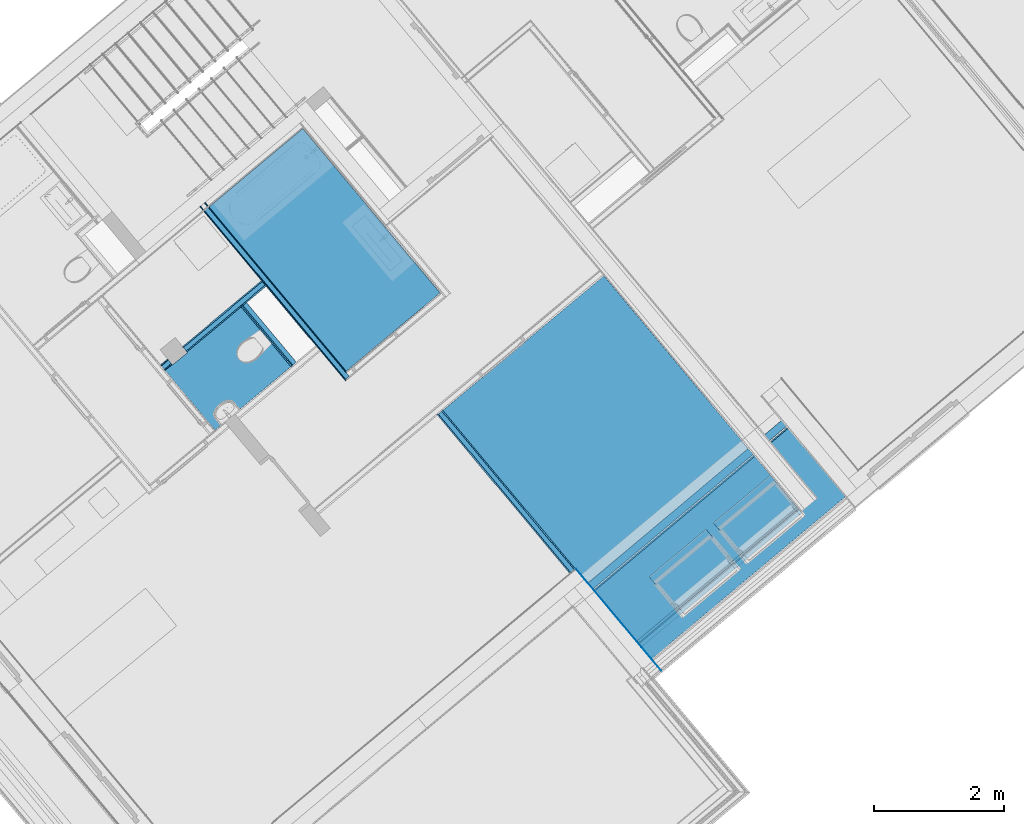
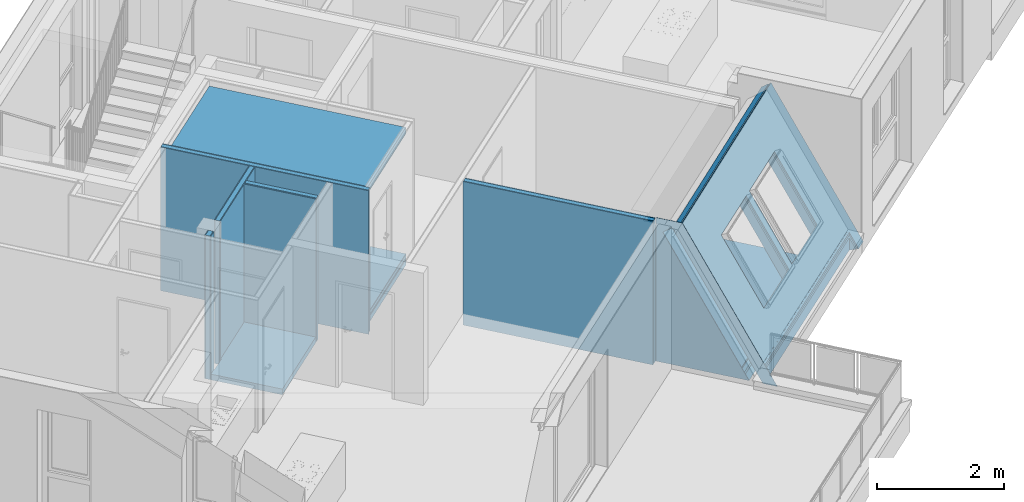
# One storey, part 25 of 58: 26 building element parts, 2 openings, 10 elements without a shape of their own.
"""IFC4 building model written with IfcOpenShell, lengths in metres."""

from ifc_helpers import new_model, entity, si_unit, converted_unit, derived_unit, direction, frame, origin_with_axes, place, context, subcontext, project, spatial, polygons, material, type_object, element, aggregate, save


model = new_model("IFC4")

# Units and contexts
model_context = context("Model", 3, precision=1e-05, world=origin_with_axes(), true_north=direction((0.0, 1.0)))
body_context = subcontext(model_context, "Body", "Model", "MODEL_VIEW")
ifc_project = project(units=[si_unit("LENGTHUNIT", "METRE"), si_unit("AREAUNIT", "SQUARE_METRE"), si_unit("VOLUMEUNIT", "CUBIC_METRE"), converted_unit("PLANEANGLEUNIT", "DEGREE", entity("IfcPlaneAngleMeasure", 0.0174532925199), si_unit("PLANEANGLEUNIT", "RADIAN"), dimensions=[0, 0, 0, 0, 0, 0, 0]), converted_unit("TIMEUNIT", "Year", entity("IfcTimeMeasure", 31556926.0), si_unit("TIMEUNIT", "SECOND"), dimensions=[0, 0, 1, 0, 0, 0, 0]), si_unit("MASSUNIT", "GRAM", prefix="KILO"), si_unit("THERMODYNAMICTEMPERATUREUNIT", "DEGREE_CELSIUS"), si_unit("LUMINOUSINTENSITYUNIT", "LUMEN"), si_unit("ENERGYUNIT", "JOULE", prefix="MEGA"), derived_unit("THERMALCONDUCTANCEUNIT", [(si_unit("POWERUNIT", "WATT"), 1), (si_unit("LENGTHUNIT", "METRE"), -1), (si_unit("THERMODYNAMICTEMPERATUREUNIT", "KELVIN"), -1)]), derived_unit("SPECIFICHEATCAPACITYUNIT", [(si_unit("ENERGYUNIT", "JOULE"), 1), (si_unit("MASSUNIT", "GRAM", prefix="KILO"), -1), (si_unit("THERMODYNAMICTEMPERATUREUNIT", "KELVIN"), -1)]), derived_unit("MASSDENSITYUNIT", [(si_unit("MASSUNIT", "GRAM", prefix="KILO"), 1), (si_unit("VOLUMEUNIT", "CUBIC_METRE"), -1)])], contexts=[model_context])

# Site, building, storey
site_placement = place(None, frame((-0.00153261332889, -0.00661245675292, 0.0), z_axis=(0.0, 0.0, 1.0), x_axis=(1.0, 0.0, 0.0)))
site = spatial("IfcSite", under=ifc_project, at=site_placement, Name="Site", CompositionType="ELEMENT")
building_placement = place(site_placement, origin_with_axes())
building = spatial("IfcBuilding", under=site, at=building_placement, Name="Building", CompositionType="ELEMENT")
storey_placement = place(building_placement, frame((0.0, 0.0, 5.7), z_axis=(0.0, 0.0, 1.0), x_axis=(1.0, 0.0, 0.0)))
storey = spatial("IfcBuildingStorey", under=building, at=storey_placement, Name="DG1", CompositionType="ELEMENT", Elevation=5.7)

# Roof, openings, building element parts
roof_type = type_object("IfcRoofType", Name="Schrägdach Dachaufbau 210", PredefinedType="NOTDEFINED")
roof_placement = place(storey_placement, frame((10.1759285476, 14.85885561, -4.03883204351), z_axis=(0.0, 0.0, 1.0), x_axis=(-0.767011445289, -0.641633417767, 0.0)))
roof = element("IfcRoof", 1, at=roof_placement, inside=storey, type_object=roof_type, Name="Dach-001", PredefinedType="NOTDEFINED")
opening_1_placement = place(roof_placement, frame((1.23343594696, -2.60271391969, 0.889200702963), z_axis=(0.0, 0.0, 1.0), x_axis=(1.0, 0.0, 0.0)))
element("IfcOpeningElement", 2, at=opening_1_placement, cuts=roof, Name="DFenst-002", context=body_context, identifier="Reference", shape_type="Tessellation", body=[
    polygons([(0.572377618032, 0.0, 4.03883204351), (-0.572377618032, 0.0, 4.03883204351), (-0.572377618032, 0.000866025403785, 4.03933204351), (0.572377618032, 0.000866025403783, 4.03933204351), (0.572377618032, 0.0, 3.61683204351), (-0.572377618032, 0.0, 3.61683204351), (-0.572377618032, -0.7, 5.2512676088), (-0.572377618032, -0.699133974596, 5.2517676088), (0.572377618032, -0.699133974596, 5.2517676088), (0.572377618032, -0.7, 5.2512676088), (0.572377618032, -0.943641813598, 5.2512676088), (-0.572377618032, -0.943641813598, 5.2512676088)], [[[1, 2, 3, 4]], [[2, 1, 5, 6]], [[2, 7, 8, 3]], [[9, 4, 3, 8]], [[10, 1, 4, 9]], [[1, 10, 11, 5]], [[12, 6, 5, 11]], [[7, 2, 6, 12]], [[7, 10, 9, 8]], [[10, 7, 12, 11]]], closed=True),
])
opening_2_placement = place(roof_placement, frame((2.52581356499, -2.60271392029, 0.889200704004), z_axis=(0.0, 0.0, 1.0), x_axis=(1.0, 0.0, 0.0)))
element("IfcOpeningElement", 3, at=opening_2_placement, cuts=roof, Name="DFenst-002", context=body_context, identifier="Reference", shape_type="Tessellation", body=[
    polygons([(0.57, 0.0, 4.03883204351), (-0.57, 0.0, 4.03883204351), (-0.57, 0.000866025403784, 4.03933204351), (0.57, 0.000866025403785, 4.03933204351), (0.57, 0.0, 3.61683204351), (-0.57, 0.0, 3.61683204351), (-0.57, -0.7, 5.2512676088), (-0.57, -0.699133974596, 5.2517676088), (0.57, -0.699133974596, 5.2517676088), (0.57, -0.7, 5.2512676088), (0.57, -0.943641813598, 5.2512676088), (-0.57, -0.943641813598, 5.2512676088)], [[[1, 2, 3, 4]], [[2, 1, 5, 6]], [[2, 7, 8, 3]], [[9, 4, 3, 8]], [[10, 1, 4, 9]], [[1, 10, 11, 5]], [[12, 6, 5, 11]], [[7, 2, 6, 12]], [[7, 10, 9, 8]], [[10, 7, 12, 11]]], closed=True),
])
ifc_material_1 = material(Name="Bauholz")
building_element_part_1_placement = place(roof_placement, origin_with_axes())
building_element_part_1 = element("IfcBuildingElementPart", 4, at=building_element_part_1_placement, material=ifc_material_1, Name="Bauholz", PredefinedType="NOTDEFINED", context=body_context, shape_type="Tessellation", body=[
    polygons([(3.87523381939, -2.3241100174, 4.42547663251), (-0.00623258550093, -2.32467653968, 4.42645787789), (-0.00623275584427, -2.32356905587, 4.42453965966), (3.87523373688, -2.32357996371, 4.42455855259), (3.87523064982, -2.30374741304, 4.39020756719), (-0.00623571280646, -2.30434442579, 4.39124162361), (-0.00626005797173, -2.14606482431, 4.11709331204), (-0.221145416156, -2.14608603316, 4.11713004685), (-0.220992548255, -3.69492330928, 6.79979490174), (3.87544592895, -3.68678954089, 6.78570680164), (1.80581356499, -3.31426092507, 6.14046831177), (0.661058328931, -3.31426092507, 6.14046831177), (0.661058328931, -2.60271391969, 4.90803274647), (1.80581356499, -2.60271391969, 4.90803274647), (3.09581356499, -2.60271392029, 4.90803274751), (3.09581356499, -3.31426092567, 6.14046831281), (1.95581356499, -3.31426092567, 6.14046831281), (1.95581356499, -2.60271392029, 4.90803274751), (3.87523375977, -2.32413801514, 4.42457589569), (-0.00623257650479, -2.32473502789, 4.42457589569), (3.87544567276, -3.70679450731, 6.77035641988), (3.87522727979, -2.30374741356, 4.34020756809), (-0.00623571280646, -2.30434442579, 4.34124162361), (-0.00625647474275, -2.16936111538, 4.1074436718), (-0.221145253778, -2.16938232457, 4.1074804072), (-0.220992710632, -3.71492827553, 6.78444451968), (1.80581356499, -3.34312843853, 6.14046831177), (0.661058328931, -3.34312843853, 6.14046831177), (0.661058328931, -2.60271391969, 4.85803274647), (1.80581356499, -2.60271391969, 4.85803274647), (3.09581356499, -3.34312843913, 6.14046831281), (3.09581356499, -2.60271392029, 4.85803274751), (1.95581356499, -3.34312843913, 6.14046831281), (1.95581356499, -2.60271392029, 4.85803274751)], [[[1, 2, 3, 4, 5, 6, 7, 8, 9, 10], [11, 12, 13, 14], [15, 16, 17, 18]], [[2, 1, 19, 20]], [[3, 2, 20]], [[4, 3, 20, 19]], [[19, 1, 10, 21, 22, 5, 4]], [[6, 5, 22, 23]], [[7, 6, 23, 24]], [[7, 24, 25, 8]], [[25, 26, 9, 8]], [[26, 21, 10, 9]], [[12, 11, 27, 28]], [[13, 12, 28, 29]], [[14, 13, 29, 30]], [[11, 14, 30, 27]], [[31, 16, 15, 32]], [[33, 17, 16, 31]], [[34, 18, 17, 33]], [[32, 15, 18, 34]], [[23, 22, 21, 26, 25, 24], [27, 30, 29, 28], [33, 31, 32, 34]]], closed=True),
])
ifc_material_2 = material(Name="EPS 1")
building_element_part_2_placement = place(roof_placement, origin_with_axes())
building_element_part_2 = element("IfcBuildingElementPart", 5, at=building_element_part_2_placement, material=ifc_material_2, Name="EPS 1", PredefinedType="NOTDEFINED", context=body_context, shape_type="Tessellation", body=[
    polygons([(3.87522390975, -2.30374741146, 4.29020756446), (-0.00623571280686, -2.30434442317, 4.29124161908), (-0.00625289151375, -2.19265740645, 4.09779403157), (-0.2211450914, -2.19267861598, 4.09783076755), (-0.220992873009, -3.73493324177, 6.76909413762), (3.87544541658, -3.72679947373, 6.75500603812), (1.80581356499, -3.37199595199, 6.14046831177), (0.661058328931, -3.37199595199, 6.14046831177), (0.661058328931, -2.60271391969, 4.80803274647), (1.80581356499, -2.60271391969, 4.80803274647), (3.09581356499, -2.60271392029, 4.80803274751), (3.09581356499, -3.37199595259, 6.14046831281), (1.95581356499, -3.37199595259, 6.14046831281), (1.95581356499, -2.60271392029, 4.80803274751), (3.87520778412, -2.30374741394, 4.0509568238), (-0.00623571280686, -2.30434442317, 4.05153175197), (3.87520809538, -2.33205206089, 4.03923265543), (-0.22114411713, -2.33245636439, 4.03993292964), (-0.22099384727, -3.85496303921, 6.67699184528), (3.87544387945, -3.8468292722, 6.66290374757), (1.80581356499, -3.54520103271, 6.14046831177), (0.661058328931, -3.54520103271, 6.14046831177), (0.661058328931, -2.60271391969, 4.50803274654), (1.80581356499, -2.60271391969, 4.50803274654), (3.09581356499, -3.54520103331, 6.14046831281), (3.09581356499, -2.60271392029, 4.50803274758), (1.95581356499, -3.54520103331, 6.14046831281), (1.95581356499, -2.60271392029, 4.50803274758)], [[[1, 2, 3, 4, 5, 6], [7, 8, 9, 10], [11, 12, 13, 14]], [[2, 1, 15, 16]], [[16, 3, 2]], [[16, 15, 17, 18, 4, 3]], [[18, 19, 5, 4]], [[19, 20, 6, 5]], [[15, 1, 6, 20, 17]], [[8, 7, 21, 22]], [[9, 8, 22, 23]], [[10, 9, 23, 24]], [[7, 10, 24, 21]], [[25, 12, 11, 26]], [[27, 13, 12, 25]], [[28, 14, 13, 27]], [[26, 11, 14, 28]], [[20, 19, 18, 17], [21, 24, 23, 22], [27, 25, 26, 28]]], closed=True),
])
aggregate(roof, [building_element_part_1, building_element_part_2])

# Wall, building element parts
wall_type_1 = type_object("IfcWallType", Name="IW LB 01 Leichtbautrennwand einfach 10,5 cm 105", PredefinedType="NOTDEFINED")
wall_1_placement = place(storey_placement, frame((2.49953312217, 17.9744361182, 0.0), z_axis=(0.0, 0.0, 1.0), x_axis=(0.641209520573, -0.767365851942, 0.0)))
wall_1 = element("IfcWall", 6, at=wall_1_placement, inside=storey, type_object=wall_type_1, Name="Wand-012", PredefinedType="NOTDEFINED")
ifc_material_3 = material(Name="Gipskarton")
building_element_part_3_placement = place(wall_1_placement, origin_with_axes())
building_element_part_3 = element("IfcBuildingElementPart", 7, at=building_element_part_3_placement, material=ifc_material_3, Name="Gipskarton", PredefinedType="NOTDEFINED", context=body_context, shape_type="Tessellation", body=[
    polygons([(3.18327552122, -0.015, 2.76), (3.18327552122, 0.0, 2.76), (1.03363873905e-06, 0.0, 2.76), (1.02740511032e-06, -0.015, 2.76), (3.18327552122, -0.015, 0.0), (3.18327552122, 0.0, 0.0), (1.03363873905e-06, 0.0, 0.0), (1.0274051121e-06, -0.015, 0.0)], [[[1, 2, 3, 4]], [[1, 5, 6, 2]], [[2, 6, 7, 3]], [[4, 3, 7, 8]], [[5, 1, 4, 8]], [[6, 5, 8, 7]]], closed=True),
])
ifc_material_4 = material(Name="Mineralwolle weich")
building_element_part_4_placement = place(wall_1_placement, origin_with_axes())
building_element_part_4 = element("IfcBuildingElementPart", 8, at=building_element_part_4_placement, material=ifc_material_4, Name="Mineralwolle weich", PredefinedType="NOTDEFINED", context=body_context, shape_type="Tessellation", body=[
    polygons([(3.18327552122, -0.09, 2.76), (3.18327552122, -0.015, 2.76), (1.02740511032e-06, -0.015, 2.76), (9.96236975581e-07, -0.09, 2.76), (3.18327552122, -0.09, 0.0), (3.18327552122, -0.015, 0.0), (1.02740511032e-06, -0.015, 0.0), (9.96236975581e-07, -0.09, 0.0)], [[[1, 2, 3, 4]], [[1, 5, 6, 2]], [[2, 6, 7, 3]], [[4, 3, 7, 8]], [[5, 1, 4, 8]], [[6, 5, 8, 7]]], closed=True),
])
building_element_part_5_placement = place(wall_1_placement, origin_with_axes())
building_element_part_5 = element("IfcBuildingElementPart", 9, at=building_element_part_5_placement, material=ifc_material_3, Name="Gipskarton", PredefinedType="NOTDEFINED", context=body_context, shape_type="Tessellation", body=[
    polygons([(3.18327552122, -0.105, 2.76), (3.18327552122, -0.09, 2.76), (9.96236975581e-07, -0.09, 2.76), (9.90003348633e-07, -0.105, 2.76), (3.18327552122, -0.105, 0.0), (3.18327552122, -0.09, 0.0), (9.96236975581e-07, -0.09, 0.0), (9.90003348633e-07, -0.105, 0.0)], [[[1, 2, 3, 4]], [[1, 5, 6, 2]], [[2, 6, 7, 3]], [[4, 3, 7, 8]], [[5, 1, 4, 8]], [[6, 5, 8, 7]]], closed=True),
])
aggregate(wall_1, [building_element_part_3, building_element_part_4, building_element_part_5])

wall_2_placement = place(storey_placement, frame((-0.283908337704, 19.9697246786, 0.0), z_axis=(0.0, 0.0, 1.0), x_axis=(-0.76736585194, -0.641209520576, 0.0)))
wall_2 = element("IfcWall", 10, at=wall_2_placement, inside=storey, type_object=wall_type_1, Name="Wand-012", PredefinedType="NOTDEFINED")
building_element_part_6_placement = place(wall_2_placement, origin_with_axes())
building_element_part_6 = element("IfcBuildingElementPart", 11, at=building_element_part_6_placement, material=ifc_material_3, Name="Gipskarton", PredefinedType="NOTDEFINED", context=body_context, shape_type="Tessellation", body=[
    polygons([(1.88476244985, 0.105, 0.0), (1.88476244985, 0.105, 2.76), (2.02595275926, 0.105, 2.76), (2.02595275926, 0.105, 0.0), (1.88453826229, 0.09, 2.76), (1.88453826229, 0.09, 0.0), (2.02595275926, 0.09, 2.76), (2.02595275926, 0.09, 0.0)], [[[1, 2, 3, 4]], [[5, 2, 1, 6]], [[2, 5, 7, 3]], [[8, 4, 3, 7]], [[6, 1, 4, 8]], [[5, 6, 8, 7]]], closed=True),
    polygons([(1.58450475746, 0.09, 2.76), (1.58472894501, 0.105, 2.76), (0.0, 0.105, 2.76), (0.0, 0.09, 2.76), (1.58472894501, 0.105, 0.0), (1.58450475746, 0.09, 0.0), (0.0, 0.105, 0.0), (0.0, 0.09, 0.0)], [[[1, 2, 3, 4]], [[5, 2, 1, 6]], [[2, 5, 7, 3]], [[3, 7, 8, 4]], [[6, 1, 4, 8]], [[5, 6, 8, 7]]], closed=True),
])
building_element_part_7_placement = place(wall_2_placement, origin_with_axes())
building_element_part_7 = element("IfcBuildingElementPart", 12, at=building_element_part_7_placement, material=ifc_material_4, Name="Mineralwolle weich", PredefinedType="NOTDEFINED", context=body_context, shape_type="Tessellation", body=[
    polygons([(1.88453826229, 0.09, 0.0), (1.88453826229, 0.09, 2.76), (2.02595275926, 0.09, 2.76), (2.02595275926, 0.09, 0.0), (1.8834173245, 0.015, 2.76), (1.8834173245, 0.015, 0.0), (2.02595275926, 0.015, 2.76), (2.02595275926, 0.015, 0.0)], [[[1, 2, 3, 4]], [[5, 2, 1, 6]], [[2, 5, 7, 3]], [[8, 4, 3, 7]], [[6, 1, 4, 8]], [[5, 6, 8, 7]]], closed=True),
    polygons([(1.58338381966, 0.015, 2.76), (1.58450475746, 0.09, 2.76), (0.0, 0.09, 2.76), (0.0, 0.015, 2.76), (1.58450475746, 0.09, 0.0), (1.58338381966, 0.015, 0.0), (0.0, 0.09, 0.0), (0.0, 0.015, 0.0)], [[[1, 2, 3, 4]], [[5, 2, 1, 6]], [[2, 5, 7, 3]], [[3, 7, 8, 4]], [[6, 1, 4, 8]], [[5, 6, 8, 7]]], closed=True),
])
building_element_part_8_placement = place(wall_2_placement, origin_with_axes())
building_element_part_8 = element("IfcBuildingElementPart", 13, at=building_element_part_8_placement, material=ifc_material_3, Name="Gipskarton", PredefinedType="NOTDEFINED", context=body_context, shape_type="Tessellation", body=[
    polygons([(1.8834173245, 0.015, 0.0), (1.8834173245, 0.015, 2.76), (2.02595275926, 0.015, 2.76), (2.02595275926, 0.015, 0.0), (1.88319313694, 0.0, 2.76), (1.88319313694, 0.0, 0.0), (2.02595275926, 0.0, 2.76), (2.02595275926, 0.0, 0.0)], [[[1, 2, 3, 4]], [[5, 2, 1, 6]], [[2, 5, 7, 3]], [[8, 4, 3, 7]], [[6, 1, 4, 8]], [[5, 6, 8, 7]]], closed=True),
    polygons([(1.58315963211, 0.0, 2.76), (1.58338381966, 0.015, 2.76), (0.0, 0.015, 2.76), (0.0, 0.0, 2.76), (1.58338381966, 0.015, 0.0), (1.58315963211, 0.0, 0.0), (0.0, 0.015, 0.0), (0.0, 0.0, 0.0)], [[[1, 2, 3, 4]], [[5, 2, 1, 6]], [[2, 5, 7, 3]], [[3, 7, 8, 4]], [[6, 1, 4, 8]], [[5, 6, 8, 7]]], closed=True),
])
aggregate(wall_2, [building_element_part_6, building_element_part_7, building_element_part_8])

wall_3_placement = place(storey_placement, frame((-1.23301762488, 21.1055687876, 0.0), z_axis=(0.0, 0.0, 1.0), x_axis=(0.6412095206, -0.767365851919, 0.0)))
wall_3 = element("IfcWall", 14, at=wall_3_placement, inside=storey, type_object=wall_type_1, Name="Wand-012", PredefinedType="NOTDEFINED")
building_element_part_9_placement = place(wall_3_placement, origin_with_axes())
building_element_part_9 = element("IfcBuildingElementPart", 15, at=building_element_part_9_placement, material=ifc_material_3, Name="Gipskarton", PredefinedType="NOTDEFINED", context=body_context, shape_type="Tessellation", body=[
    polygons([(3.39960026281, 0.09, 0.0), (0.0, 0.09, 0.0), (0.0, 0.105, 0.0), (3.39960026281, 0.105, 0.0), (3.39960026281, 0.09, 2.76), (0.0, 0.09, 2.76), (0.0, 0.105, 2.76), (3.39960026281, 0.105, 2.76)], [[[1, 2, 3, 4]], [[5, 6, 2, 1]], [[3, 2, 6, 7]], [[4, 3, 7, 8]], [[4, 8, 5, 1]], [[8, 7, 6, 5]]], closed=True),
])
building_element_part_10_placement = place(wall_3_placement, origin_with_axes())
building_element_part_10 = element("IfcBuildingElementPart", 16, at=building_element_part_10_placement, material=ifc_material_4, Name="Mineralwolle weich", PredefinedType="NOTDEFINED", context=body_context, shape_type="Tessellation", body=[
    polygons([(3.47460026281, 0.015, 0.0), (0.0, 0.015, 0.0), (0.0, 0.09, 0.0), (3.47460026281, 0.09, 0.0), (3.47460026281, 0.015, 2.76), (0.0, 0.015, 2.76), (0.0, 0.09, 2.76), (3.47460026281, 0.09, 2.76)], [[[1, 2, 3, 4]], [[5, 6, 2, 1]], [[3, 2, 6, 7]], [[4, 3, 7, 8]], [[4, 8, 5, 1]], [[8, 7, 6, 5]]], closed=True),
])
building_element_part_11_placement = place(wall_3_placement, origin_with_axes())
building_element_part_11 = element("IfcBuildingElementPart", 17, at=building_element_part_11_placement, material=ifc_material_3, Name="Gipskarton", PredefinedType="NOTDEFINED", context=body_context, shape_type="Tessellation", body=[
    polygons([(3.48960026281, 0.0, 0.0), (0.0, 0.0, 0.0), (0.0, 0.015, 0.0), (3.48960026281, 0.015, 0.0), (3.48960026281, 0.0, 2.76), (0.0, 0.0, 2.76), (0.0, 0.015, 2.76), (3.48960026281, 0.015, 2.76)], [[[1, 2, 3, 4]], [[5, 6, 2, 1]], [[3, 2, 6, 7]], [[4, 3, 7, 8]], [[4, 8, 5, 1]], [[8, 7, 6, 5]]], closed=True),
])
aggregate(wall_3, [building_element_part_9, building_element_part_10, building_element_part_11])

wall_type_2 = type_object("IfcWallType", Name="LB 10,5 cm doppelte Vorsatzschale Bad 105", PredefinedType="NOTDEFINED")
wall_4_placement = place(storey_placement, frame((-0.587223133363, 19.7162753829, 0.0), z_axis=(0.0, 0.0, 1.0), x_axis=(0.64120952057, -0.767365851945, 0.0)))
wall_4 = element("IfcWall", 18, at=wall_4_placement, inside=storey, type_object=wall_type_2, Name="Wand-004", PredefinedType="NOTDEFINED")
building_element_part_12_placement = place(wall_4_placement, origin_with_axes())
building_element_part_12 = element("IfcBuildingElementPart", 19, at=building_element_part_12_placement, material=ifc_material_4, Name="Mineralwolle weich", PredefinedType="NOTDEFINED", context=body_context, shape_type="Tessellation", body=[
    polygons([(1.30487896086, 0.0, 2.76), (0.10500000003, 0.0, 2.76), (0.105000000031, -0.075, 2.76), (1.30487896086, -0.075, 2.76), (1.30487896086, 0.0, 0.0), (0.10500000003, 0.0, 0.0), (0.105000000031, -0.075, 0.0), (1.30487896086, -0.075, 0.0)], [[[1, 2, 3, 4]], [[5, 6, 2, 1]], [[3, 2, 6, 7]], [[4, 3, 7, 8]], [[4, 8, 5, 1]], [[8, 7, 6, 5]]], closed=True),
])
building_element_part_13_placement = place(wall_4_placement, origin_with_axes())
building_element_part_13 = element("IfcBuildingElementPart", 20, at=building_element_part_13_placement, material=ifc_material_3, Name="Gipskarton", PredefinedType="NOTDEFINED", context=body_context, shape_type="Tessellation", body=[
    polygons([(1.30487896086, -0.075, 2.76), (0.105000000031, -0.075, 2.76), (0.105000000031, -0.09, 2.76), (1.30487896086, -0.09, 2.76), (1.30487896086, -0.075, 0.0), (0.105000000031, -0.075, 0.0), (0.105000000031, -0.09, 0.0), (1.30487896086, -0.09, 0.0)], [[[1, 2, 3, 4]], [[5, 6, 2, 1]], [[3, 2, 6, 7]], [[4, 3, 7, 8]], [[4, 8, 5, 1]], [[8, 7, 6, 5]]], closed=True),
])
building_element_part_14_placement = place(wall_4_placement, origin_with_axes())
building_element_part_14 = element("IfcBuildingElementPart", 21, at=building_element_part_14_placement, material=ifc_material_3, Name="Gipskarton", PredefinedType="NOTDEFINED", context=body_context, shape_type="Tessellation", body=[
    polygons([(1.30487896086, -0.09, 2.76), (0.105000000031, -0.09, 2.76), (0.105000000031, -0.105, 2.76), (1.30487896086, -0.105, 2.76), (1.30487896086, -0.09, 0.0), (0.105000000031, -0.09, 0.0), (0.105000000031, -0.105, 0.0), (1.30487896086, -0.105, 0.0)], [[[1, 2, 3, 4]], [[5, 6, 2, 1]], [[3, 2, 6, 7]], [[4, 3, 7, 8]], [[4, 8, 5, 1]], [[8, 7, 6, 5]]], closed=True),
])
aggregate(wall_4, [building_element_part_12, building_element_part_13, building_element_part_14])

# Wall, building element part
wall_type_3 = type_object("IfcWallType", Name="AW EG 420", PredefinedType="NOTDEFINED")
wall_5_placement = place(storey_placement, frame((4.49965389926, 14.9497476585, 0.0), z_axis=(0.0, 0.0, 1.0), x_axis=(0.641751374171, -0.766912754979, 0.0)))
wall_5 = element("IfcWall", 22, at=wall_5_placement, inside=storey, type_object=wall_type_3, Name="Wand-002", PredefinedType="NOTDEFINED")
ifc_material_5 = material(Name="Zementputz")
building_element_part_15_placement = place(wall_5_placement, origin_with_axes())
building_element_part_15 = element("IfcBuildingElementPart", 23, at=building_element_part_15_placement, material=ifc_material_5, Name="Zementputz", PredefinedType="NOTDEFINED", context=body_context, shape_type="Tessellation", body=[
    polygons([(-0.414977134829, 0.415, 0.0), (-0.414977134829, 0.415, 2.76), (-0.414976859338, 0.42, 2.76), (-0.414976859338, 0.42, 0.0), (1.14911344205, 0.415, 0.0), (-0.299028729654, 0.415, 2.50825578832), (-0.138988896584, 0.415, 2.63105866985), (1.38005355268, 0.415, 0.0), (1.6225414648, 0.415, 0.0), (0.0290539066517, 0.415, 2.76), (0.0290546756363, 0.42, 2.76), (1.6225414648, 0.42, 0.0), (1.38005432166, 0.42, 0.0), (-0.138988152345, 0.42, 2.63105871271), (-0.299027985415, 0.42, 2.50825583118), (1.14911421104, 0.42, 0.0)], [[[1, 2, 3, 4]], [[2, 1, 5, 6, 7, 8, 9, 10]], [[3, 2, 10, 11]], [[4, 3, 11, 12, 13, 14, 15, 16]], [[1, 4, 16, 5]], [[15, 6, 5, 16]], [[6, 15, 14, 7]], [[13, 8, 7, 14]], [[8, 13, 12, 9]], [[11, 10, 9, 12]]], closed=True),
])
aggregate(wall_5, [building_element_part_15])

# Covering, building element parts
covering_type_1 = type_object("IfcCoveringType", Name="DE 01 Decke Wohnung/Wohnung Parkett 220", PredefinedType="NOTDEFINED")
covering_1_placement = place(storey_placement, frame((2.49953312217, 17.9744361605, 0.22), z_axis=(0.0, 0.0, 1.0), x_axis=(1.0, 0.0, 0.0)))
covering_1 = element("IfcCovering", 24, at=covering_1_placement, inside=storey, type_object=covering_type_1, Name="Decke-006", PredefinedType="NOTDEFINED")
ifc_material_6 = material(Name="Parkett")
building_element_part_16_placement = place(covering_1_placement, origin_with_axes())
building_element_part_16 = element("IfcBuildingElementPart", 25, at=building_element_part_16_placement, material=ifc_material_6, Name="Parkett", PredefinedType="NOTDEFINED", context=body_context, shape_type="Tessellation", body=[
    polygons([(5.44277916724, -1.47726423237, 0.0), (5.44833178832, -1.48391016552, -0.015), (2.47833027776, 2.0708851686, -0.015), (2.47833027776, 2.0708851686, 0.0), (2.98371411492, -3.54565392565, -0.015), (2.97815638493, -3.53901226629, 0.0), (2.32244345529, -2.75541502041, -0.015), (2.05272115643, -2.43305242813, -0.015), (2.0411465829, -2.44273701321, -0.015), (0.0, 0.0, -0.015), (0.0, 0.0, 0.0), (2.0411465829, -2.44273701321, 0.0), (2.05272115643, -2.43305242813, 0.0), (2.32244345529, -2.75541502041, 0.0)], [[[1, 2, 3, 4]], [[5, 2, 1, 6]], [[2, 5, 7, 8, 9, 10, 3]], [[11, 4, 3, 10]], [[6, 1, 4, 11, 12, 13, 14]], [[5, 6, 14, 7]], [[8, 7, 14, 13]], [[12, 9, 8, 13]], [[11, 10, 9, 12]]], closed=True),
])
ifc_material_7 = material(Name="Estrich")
building_element_part_17_placement = place(covering_1_placement, origin_with_axes())
building_element_part_17 = element("IfcBuildingElementPart", 26, at=building_element_part_17_placement, material=ifc_material_7, Name="Estrich", PredefinedType="NOTDEFINED", context=body_context, shape_type="Tessellation", body=[
    polygons([(5.44833178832, -1.48391016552, -0.015), (5.47239314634, -1.5127092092, -0.08), (2.47833027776, 2.0708851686, -0.08), (2.47833027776, 2.0708851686, -0.015), (3.00779761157, -3.57443444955, -0.08), (2.98371411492, -3.54565392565, -0.015), (2.32244345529, -2.75541502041, -0.08), (2.05272115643, -2.43305242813, -0.08), (2.0411465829, -2.44273701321, -0.08), (0.0, 0.0, -0.08), (0.0, 0.0, -0.015), (2.0411465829, -2.44273701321, -0.015), (2.05272115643, -2.43305242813, -0.015), (2.32244345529, -2.75541502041, -0.015)], [[[1, 2, 3, 4]], [[5, 2, 1, 6]], [[2, 5, 7, 8, 9, 10, 3]], [[11, 4, 3, 10]], [[6, 1, 4, 11, 12, 13, 14]], [[5, 6, 14, 7]], [[8, 7, 14, 13]], [[12, 9, 8, 13]], [[11, 10, 9, 12]]], closed=True),
])
ifc_material_8 = material(Name="Trittschalldämmung")
building_element_part_18_placement = place(covering_1_placement, origin_with_axes())
building_element_part_18 = element("IfcBuildingElementPart", 27, at=building_element_part_18_placement, material=ifc_material_8, Name="Trittschalldämmung", PredefinedType="NOTDEFINED", context=body_context, shape_type="Tessellation", body=[
    polygons([(5.47239314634, -1.5127092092, -0.08), (5.48349838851, -1.52600107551, -0.11), (2.47833027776, 2.0708851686, -0.11), (2.47833027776, 2.0708851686, -0.08), (3.01891307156, -3.58771776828, -0.11), (3.00779761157, -3.57443444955, -0.08), (2.32244345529, -2.75541502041, -0.11), (2.05272115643, -2.43305242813, -0.11), (2.0411465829, -2.44273701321, -0.11), (0.0, 0.0, -0.11), (0.0, 0.0, -0.08), (2.0411465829, -2.44273701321, -0.08), (2.05272115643, -2.43305242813, -0.08), (2.32244345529, -2.75541502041, -0.08)], [[[1, 2, 3, 4]], [[5, 2, 1, 6]], [[2, 5, 7, 8, 9, 10, 3]], [[11, 4, 3, 10]], [[6, 1, 4, 11, 12, 13, 14]], [[5, 6, 14, 7]], [[8, 7, 14, 13]], [[12, 9, 8, 13]], [[11, 10, 9, 12]]], closed=True),
])
ifc_material_9 = material(Name="Schüttung")
building_element_part_19_placement = place(covering_1_placement, origin_with_axes())
building_element_part_19 = element("IfcBuildingElementPart", 28, at=building_element_part_19_placement, material=ifc_material_9, Name="Schüttung", PredefinedType="NOTDEFINED", context=body_context, shape_type="Tessellation", body=[
    polygons([(5.51364606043, -1.56037352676, -0.189168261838), (5.52505545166, -1.57403703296, -0.22), (5.51364606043, -1.56037352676, -0.22), (3.05966975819, -3.63642327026, -0.22), (5.51280404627, -1.56107702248, -0.189167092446), (5.48349838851, -1.52600107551, -0.11), (3.01891307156, -3.58771776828, -0.11), (2.32244345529, -2.75541502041, -0.22), (2.05272115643, -2.43305242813, -0.22), (2.0411465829, -2.44273701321, -0.22), (0.0, 0.0, -0.22), (2.47833027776, 2.0708851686, -0.22), (5.51280404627, -1.56107702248, -0.22), (2.47833027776, 2.0708851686, -0.11), (0.0, 0.0, -0.11), (2.0411465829, -2.44273701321, -0.11), (2.05272115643, -2.43305242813, -0.11), (2.32244345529, -2.75541502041, -0.11)], [[[1, 2, 3]], [[4, 2, 1, 5, 6, 7]], [[2, 4, 8, 9, 10, 11, 12, 13, 3]], [[5, 1, 3, 13]], [[6, 5, 13, 12, 14]], [[7, 6, 14, 15, 16, 17, 18]], [[4, 7, 18, 8]], [[9, 8, 18, 17]], [[17, 16, 10, 9]], [[16, 15, 11, 10]], [[15, 14, 12, 11]]], closed=True),
])
aggregate(covering_1, [building_element_part_16, building_element_part_17, building_element_part_18, building_element_part_19])

covering_type_2 = type_object("IfcCoveringType", Name="DE 01 Decke Wohnung/Wohnung Fließen 220", PredefinedType="NOTDEFINED")
covering_2_placement = place(storey_placement, frame((2.46070637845, 19.7813643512, 0.22), z_axis=(0.0, 0.0, 1.0), x_axis=(1.0, 0.0, 0.0)))
covering_2 = element("IfcCovering", 29, at=covering_2_placement, inside=storey, type_object=covering_type_2, Name="Decke-003", PredefinedType="NOTDEFINED")
ifc_material_10 = material(Name="Fliesen")
building_element_part_20_placement = place(covering_2_placement, origin_with_axes())
building_element_part_20 = element("IfcBuildingElementPart", 30, at=building_element_part_20_placement, material=ifc_material_10, Name="Fliesen", PredefinedType="NOTDEFINED", context=body_context, shape_type="Tessellation", body=[
    polygons([(-8.27730485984e-05, -6.91649737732e-05, -0.015), (-8.27730485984e-05, -6.91649737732e-05, 0.0), (-1.44291267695, -1.20569522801, 0.0), (-1.44291267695, -1.20569522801, -0.015), (-0.846454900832, 1.01087165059, 0.0), (-0.846454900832, 1.01087165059, -0.015), (-0.845379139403, 1.01177229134, 0.0), (-2.11244671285, 2.52823254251, 0.0), (-3.55544192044, 1.32246835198, 0.0), (-3.55544192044, 1.32246835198, -0.015), (-2.11244671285, 2.52823254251, -0.015), (-0.845379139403, 1.01177229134, -0.015)], [[[1, 2, 3, 4]], [[5, 2, 1, 6]], [[5, 7, 8, 9, 3, 2]], [[10, 4, 3, 9]], [[6, 1, 4, 10, 11, 12]], [[12, 7, 5, 6]], [[7, 12, 11, 8]], [[11, 10, 9, 8]]], closed=True),
])
building_element_part_21_placement = place(covering_2_placement, origin_with_axes())
building_element_part_21 = element("IfcBuildingElementPart", 31, at=building_element_part_21_placement, material=ifc_material_7, Name="Estrich", PredefinedType="NOTDEFINED", context=body_context, shape_type="Tessellation", body=[
    polygons([(-8.27730485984e-05, -6.91649737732e-05, -0.08), (-8.27730485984e-05, -6.91649737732e-05, -0.015), (-1.44291267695, -1.20569522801, -0.015), (-1.44291267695, -1.20569522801, -0.08), (-0.846454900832, 1.01087165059, -0.015), (-0.846454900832, 1.01087165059, -0.08), (-0.845379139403, 1.01177229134, -0.015), (-2.11244671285, 2.52823254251, -0.015), (-3.55544192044, 1.32246835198, -0.015), (-3.55544192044, 1.32246835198, -0.08), (-2.11244671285, 2.52823254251, -0.08), (-0.845379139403, 1.01177229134, -0.08)], [[[1, 2, 3, 4]], [[5, 2, 1, 6]], [[5, 7, 8, 9, 3, 2]], [[10, 4, 3, 9]], [[6, 1, 4, 10, 11, 12]], [[12, 7, 5, 6]], [[7, 12, 11, 8]], [[11, 10, 9, 8]]], closed=True),
])
building_element_part_22_placement = place(covering_2_placement, origin_with_axes())
building_element_part_22 = element("IfcBuildingElementPart", 32, at=building_element_part_22_placement, material=ifc_material_8, Name="Trittschalldämmung", PredefinedType="NOTDEFINED", context=body_context, shape_type="Tessellation", body=[
    polygons([(-8.27730485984e-05, -6.91649737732e-05, -0.11), (-8.27730485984e-05, -6.91649737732e-05, -0.08), (-1.44291267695, -1.20569522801, -0.08), (-1.44291267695, -1.20569522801, -0.11), (-0.846454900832, 1.01087165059, -0.08), (-0.846454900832, 1.01087165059, -0.11), (-0.845379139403, 1.01177229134, -0.08), (-2.11244671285, 2.52823254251, -0.08), (-3.55544192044, 1.32246835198, -0.08), (-3.55544192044, 1.32246835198, -0.11), (-2.11244671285, 2.52823254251, -0.11), (-0.845379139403, 1.01177229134, -0.11)], [[[1, 2, 3, 4]], [[5, 2, 1, 6]], [[5, 7, 8, 9, 3, 2]], [[10, 4, 3, 9]], [[6, 1, 4, 10, 11, 12]], [[12, 7, 5, 6]], [[7, 12, 11, 8]], [[11, 10, 9, 8]]], closed=True),
])
building_element_part_23_placement = place(covering_2_placement, origin_with_axes())
building_element_part_23 = element("IfcBuildingElementPart", 33, at=building_element_part_23_placement, material=ifc_material_9, Name="Schüttung", PredefinedType="NOTDEFINED", context=body_context, shape_type="Tessellation", body=[
    polygons([(-8.27730485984e-05, -6.91649737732e-05, -0.22), (-8.27730485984e-05, -6.91649737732e-05, -0.11), (-1.44291267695, -1.20569522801, -0.11), (-1.44291267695, -1.20569522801, -0.22), (-0.846454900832, 1.01087165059, -0.11), (-0.846454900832, 1.01087165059, -0.22), (-0.845379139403, 1.01177229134, -0.11), (-2.11244671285, 2.52823254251, -0.11), (-3.55544192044, 1.32246835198, -0.11), (-3.55544192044, 1.32246835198, -0.22), (-2.11244671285, 2.52823254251, -0.22), (-0.845379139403, 1.01177229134, -0.22)], [[[1, 2, 3, 4]], [[5, 2, 1, 6]], [[5, 7, 8, 9, 3, 2]], [[9, 10, 4, 3]], [[6, 1, 4, 10, 11, 12]], [[12, 7, 5, 6]], [[7, 12, 11, 8]], [[8, 11, 10, 9]]], closed=True),
])
aggregate(covering_2, [building_element_part_20, building_element_part_21, building_element_part_22, building_element_part_23])

# Covering, building element part
covering_3_placement = place(storey_placement, frame((-1.77122830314, 18.5900910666, 0.22), z_axis=(0.0, 0.0, 1.0), x_axis=(1.0, 0.0, 0.0)))
covering_3 = element("IfcCovering", 34, at=covering_3_placement, inside=storey, type_object=covering_type_2, Name="Decke-004", PredefinedType="NOTDEFINED")
building_element_part_24_placement = place(covering_3_placement, origin_with_axes())
building_element_part_24 = element("IfcBuildingElementPart", 35, at=building_element_part_24_placement, material=ifc_material_9, Name="Schüttung", PredefinedType="NOTDEFINED", context=body_context, shape_type="Tessellation", body=[
    polygons([(0.0, 0.0, -0.22), (0.769373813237, -0.920746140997, -0.22), (0.769373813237, -0.920746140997, -0.11), (0.0, 0.0, -0.11), (0.108344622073, 0.0905325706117, -0.22), (0.114063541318, 0.0834767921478, -0.22), (0.34712229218, 0.272377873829, -0.22), (0.338580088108, 0.282916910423, -0.22), (1.170758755, 0.978283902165, -0.22), (1.94013256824, 0.0575377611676, -0.22), (1.94013256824, 0.0575377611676, -0.11), (1.170758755, 0.978283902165, -0.11), (0.338580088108, 0.282916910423, -0.11), (0.34712229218, 0.272377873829, -0.11), (0.114063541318, 0.0834767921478, -0.11), (0.108344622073, 0.0905325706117, -0.11)], [[[1, 2, 3, 4]], [[1, 5, 6, 7, 8, 9, 10, 2]], [[2, 10, 11, 3]], [[4, 3, 11, 12, 13, 14, 15, 16]], [[5, 1, 4, 16]], [[6, 5, 16, 15]], [[7, 6, 15, 14]], [[8, 7, 14, 13]], [[9, 8, 13, 12]], [[10, 9, 12, 11]]], closed=True),
])
aggregate(covering_3, [building_element_part_24])

# Slab, building element parts
slab_type = type_object("IfcSlabType", Name="Vorsatzschale Garage 130", PredefinedType="NOTDEFINED")
slab_placement = place(storey_placement, frame((-1.09473535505, 21.1038328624, 2.65), z_axis=(0.0, 0.0, 1.0), x_axis=(1.0, 0.0, 0.0)))
slab = element("IfcSlab", 36, at=slab_placement, inside=storey, type_object=slab_type, Name="Decke-005", PredefinedType="NOTDEFINED")
ifc_material_11 = material(Name="Holzwolledämmplatte")
building_element_part_25_placement = place(slab_placement, origin_with_axes())
building_element_part_25 = element("IfcBuildingElementPart", 37, at=building_element_part_25_placement, material=ifc_material_11, Name="Holzwolledämmplatte", PredefinedType="NOTDEFINED", context=body_context, shape_type="Tessellation", body=[
    polygons([(0.0, 0.0, -0.12), (2.11252905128, -2.52816373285, -0.12), (2.11252905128, -2.52816373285, 0.0), (0.0, 0.0, 0.0), (1.44299501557, 1.20576403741, -0.12), (3.55544172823, -1.32246850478, -0.12), (3.55544172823, -1.32246850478, 0.0), (1.44299501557, 1.20576403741, 0.0)], [[[1, 2, 3, 4]], [[2, 1, 5, 6]], [[2, 6, 7, 3]], [[8, 4, 3, 7]], [[5, 1, 4, 8]], [[6, 5, 8, 7]]], closed=True),
])
building_element_part_26_placement = place(slab_placement, origin_with_axes())
building_element_part_26 = element("IfcBuildingElementPart", 38, at=building_element_part_26_placement, material=ifc_material_5, Name="Zementputz", PredefinedType="NOTDEFINED", context=body_context, shape_type="Tessellation", body=[
    polygons([(0.0, 0.0, -0.12), (0.0, 0.0, -0.13), (2.11252905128, -2.52816373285, -0.13), (2.11252905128, -2.52816373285, -0.12), (1.44299501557, 1.20576403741, -0.12), (1.44299501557, 1.20576403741, -0.13), (3.55544172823, -1.32246850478, -0.13), (3.55544172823, -1.32246850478, -0.12)], [[[1, 2, 3, 4]], [[5, 6, 2, 1]], [[3, 2, 6, 7]], [[4, 3, 7, 8]], [[5, 1, 4, 8]], [[8, 7, 6, 5]]], closed=True),
])
aggregate(slab, [building_element_part_25, building_element_part_26])

save(model, "model.ifc")
